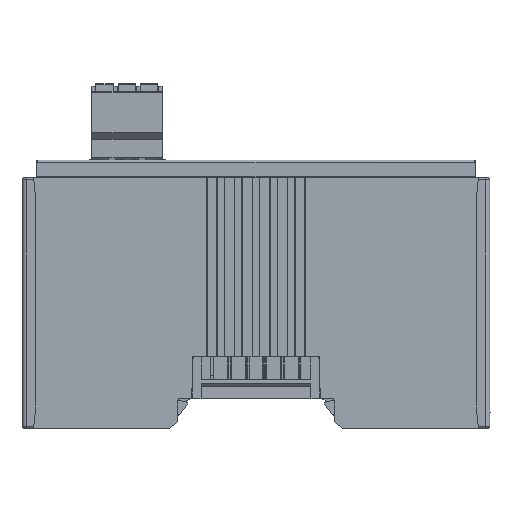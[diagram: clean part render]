
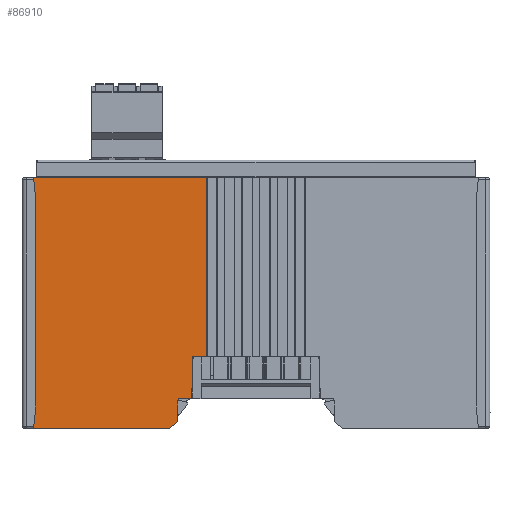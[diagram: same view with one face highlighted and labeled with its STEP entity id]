
A CAD part, left-side view. The second image highlights one B-rep face of the part: STEP entity #86910.
In plain terms, the highlighted planar face has unit normal (-1, 0, 0).
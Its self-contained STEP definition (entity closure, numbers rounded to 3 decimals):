
#1067=CARTESIAN_POINT('',(-11.25,19.813,-56.7));
#1068=DIRECTION('',(1.,0.,0.));
#1069=DIRECTION('',(0.,-0.682,-0.731));
#1070=AXIS2_PLACEMENT_3D('',#1067,#1068,#1069);
#1072=DIRECTION('',(0.,-0.114,0.994));
#1073=VECTOR('',#1072,3.523);
#1074=CARTESIAN_POINT('',(-11.25,52.,-57.));
#1075=LINE('',#1074,#1073);
#1076=DIRECTION('',(0.,0.,1.));
#1077=VECTOR('',#1076,50.);
#1078=CARTESIAN_POINT('',(-11.25,51.6,-53.5));
#1079=LINE('',#1078,#1077);
#1080=DIRECTION('',(0.,0.114,0.994));
#1081=VECTOR('',#1080,3.523);
#1082=CARTESIAN_POINT('',(-11.25,51.6,-3.5));
#1083=LINE('',#1082,#1081);
#1084=DIRECTION('',(0.,-1.,0.));
#1085=VECTOR('',#1084,40.8);
#1086=CARTESIAN_POINT('',(-11.25,52.,0.));
#1087=LINE('',#1086,#1085);
#1088=DIRECTION('',(0.,0.,-1.));
#1089=VECTOR('',#1088,40.7);
#1090=CARTESIAN_POINT('',(-11.25,11.2,0.));
#1091=LINE('',#1090,#1089);
#1092=DIRECTION('',(0.,0.026,-1.));
#1093=VECTOR('',#1092,9.603);
#1094=CARTESIAN_POINT('',(-11.25,14.36,-40.7));
#1095=LINE('',#1094,#1093);
#1096=DIRECTION('',(0.,0.017,-1.));
#1097=VECTOR('',#1096,4.82);
#1098=CARTESIAN_POINT('',(-11.25,17.727,-50.3));
#1099=LINE('',#1098,#1097);
#1100=CARTESIAN_POINT('',(-11.25,18.112,-55.114));
#1101=DIRECTION('',(1.,0.,0.));
#1102=DIRECTION('',(0.,-1.,-0.017));
#1103=AXIS2_PLACEMENT_3D('',#1100,#1101,#1102);
#1105=DIRECTION('',(0.,0.731,-0.682));
#1106=VECTOR('',#1105,2.326);
#1107=CARTESIAN_POINT('',(-11.25,17.907,-55.333));
#1108=LINE('',#1107,#1106);
#1130=DIRECTION('',(0.,-1.,0.));
#1131=VECTOR('',#1130,32.187);
#1132=CARTESIAN_POINT('',(-11.25,52.,-57.));
#1133=LINE('',#1132,#1131);
#1361=DIRECTION('',(0.,-1.,0.));
#1362=VECTOR('',#1361,3.16);
#1363=CARTESIAN_POINT('',(-11.25,14.36,-40.7));
#1364=LINE('',#1363,#1362);
#48838=DIRECTION('',(0.,-1.,0.));
#48839=VECTOR('',#48838,3.116);
#48840=CARTESIAN_POINT('',(-11.25,17.727,-50.3));
#48841=LINE('',#48840,#48839);
#68235=CARTESIAN_POINT('',(-11.25,11.2,0.));
#68236=VERTEX_POINT('',#68235);
#68237=CARTESIAN_POINT('',(-11.25,52.,0.));
#68238=VERTEX_POINT('',#68237);
#68530=CARTESIAN_POINT('',(-11.25,19.608,-56.919));
#68531=CARTESIAN_POINT('',(-11.25,19.813,-57.));
#68532=VERTEX_POINT('',#68530);
#68533=VERTEX_POINT('',#68531);
#68534=CARTESIAN_POINT('',(-11.25,52.,-57.));
#68535=VERTEX_POINT('',#68534);
#68536=CARTESIAN_POINT('',(-11.25,51.6,-53.5));
#68537=VERTEX_POINT('',#68536);
#68538=CARTESIAN_POINT('',(-11.25,51.6,-3.5));
#68539=VERTEX_POINT('',#68538);
#68540=CARTESIAN_POINT('',(-11.25,11.2,-40.7));
#68541=VERTEX_POINT('',#68540);
#68542=CARTESIAN_POINT('',(-11.25,14.36,-40.7));
#68543=VERTEX_POINT('',#68542);
#68544=CARTESIAN_POINT('',(-11.25,14.612,-50.3));
#68545=VERTEX_POINT('',#68544);
#68546=CARTESIAN_POINT('',(-11.25,17.727,-50.3));
#68547=VERTEX_POINT('',#68546);
#68548=CARTESIAN_POINT('',(-11.25,17.812,-55.119));
#68549=VERTEX_POINT('',#68548);
#68550=CARTESIAN_POINT('',(-11.25,17.907,-55.333));
#68551=VERTEX_POINT('',#68550);
#86879=CARTESIAN_POINT('',(-11.25,50.,0.));
#86880=DIRECTION('',(-1.,0.,0.));
#86881=DIRECTION('',(0.,-1.,0.));
#86882=AXIS2_PLACEMENT_3D('',#86879,#86880,#86881);
#86883=PLANE('',#86882);
#86884=ORIENTED_EDGE('',*,*,#86869,.T.);
#86886=ORIENTED_EDGE('',*,*,#86885,.F.);
#86888=ORIENTED_EDGE('',*,*,#86887,.T.);
#86890=ORIENTED_EDGE('',*,*,#86889,.T.);
#86892=ORIENTED_EDGE('',*,*,#86891,.T.);
#86893=ORIENTED_EDGE('',*,*,#86046,.T.);
#86895=ORIENTED_EDGE('',*,*,#86894,.T.);
#86897=ORIENTED_EDGE('',*,*,#86896,.F.);
#86899=ORIENTED_EDGE('',*,*,#86898,.T.);
#86901=ORIENTED_EDGE('',*,*,#86900,.F.);
#86903=ORIENTED_EDGE('',*,*,#86902,.T.);
#86905=ORIENTED_EDGE('',*,*,#86904,.T.);
#86907=ORIENTED_EDGE('',*,*,#86906,.T.);
#86908=EDGE_LOOP('',(#86884,#86886,#86888,#86890,#86892,#86893,#86895,#86897,
#86899,#86901,#86903,#86905,#86907));
#86909=FACE_OUTER_BOUND('',#86908,.F.);
#86910=ADVANCED_FACE('',(#86909),#86883,.T.);
#1071=CIRCLE('',#1070,0.3);
#1104=CIRCLE('',#1103,0.3);
#86046=EDGE_CURVE('',#68238,#68236,#1087,.T.);
#86869=EDGE_CURVE('',#68532,#68533,#1071,.T.);
#86885=EDGE_CURVE('',#68535,#68533,#1133,.T.);
#86887=EDGE_CURVE('',#68535,#68537,#1075,.T.);
#86889=EDGE_CURVE('',#68537,#68539,#1079,.T.);
#86891=EDGE_CURVE('',#68539,#68238,#1083,.T.);
#86894=EDGE_CURVE('',#68236,#68541,#1091,.T.);
#86896=EDGE_CURVE('',#68543,#68541,#1364,.T.);
#86898=EDGE_CURVE('',#68543,#68545,#1095,.T.);
#86900=EDGE_CURVE('',#68547,#68545,#48841,.T.);
#86902=EDGE_CURVE('',#68547,#68549,#1099,.T.);
#86904=EDGE_CURVE('',#68549,#68551,#1104,.T.);
#86906=EDGE_CURVE('',#68551,#68532,#1108,.T.);
